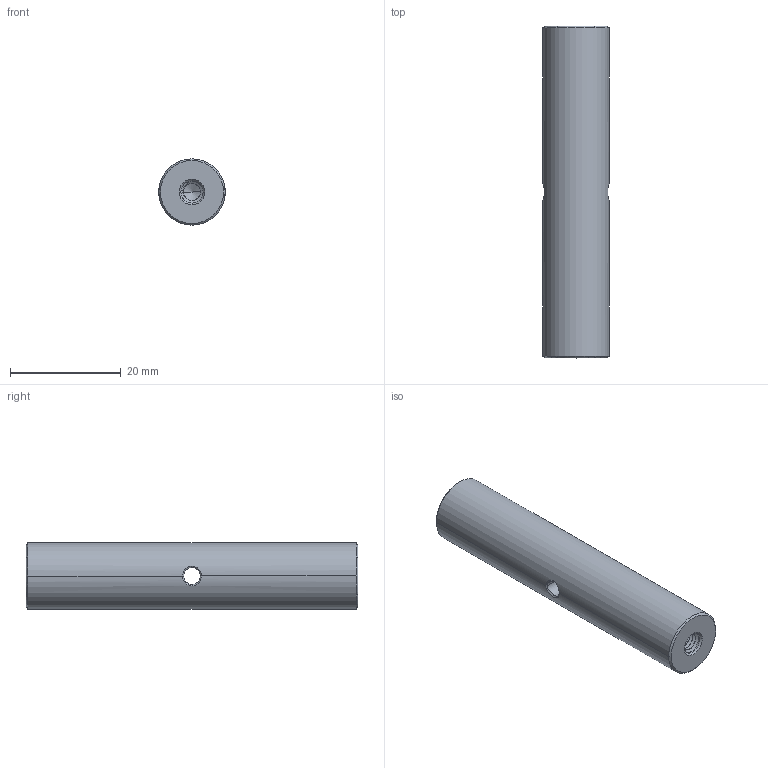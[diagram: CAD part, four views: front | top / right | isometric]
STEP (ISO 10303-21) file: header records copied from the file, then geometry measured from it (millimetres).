
FILE_DESCRIPTION((''),'2;1');
FILE_NAME('PCA6-S2','2020-12-11T',('Administrator'),(''),'CREO PARAMETRIC BY PTC INC, 2015290','CREO PARAMETRIC BY PTC INC, 2015290','');
FILE_SCHEMA(('CONFIG_CONTROL_DESIGN'));
Length unit declared in the file: millimetre
Products named in the file (1): PCA6-S2
Bounding box: 12 x 60 x 12 mm (x, y, z)
Volume: 6540.6 mm3; surface area: 2827.2 mm2
Topology: 1 solids, 1 shells, 80 faces, 216 edges, 134 vertices
Faces by surface type: cylinder 42, bspline 24, cone 12, plane 2
Entity records: 6047 total; most frequent: CARTESIAN_POINT 4315, ORIENTED_EDGE 424, DIRECTION 228, EDGE_CURVE 212, VERTEX_POINT 134, B_SPLINE_CURVE_WITH_KNOTS 116, EDGE_LOOP 82, FACE_OUTER_BOUND 80
